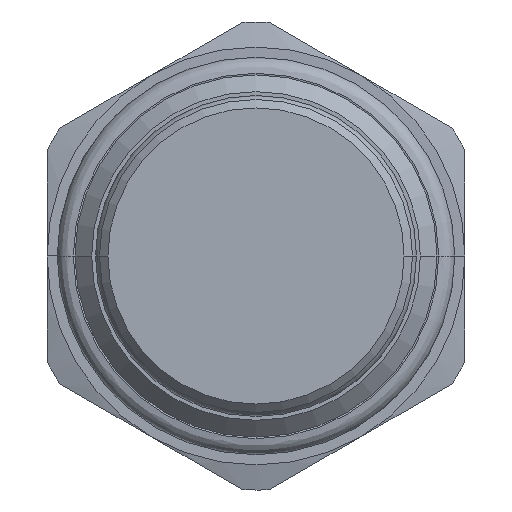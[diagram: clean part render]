
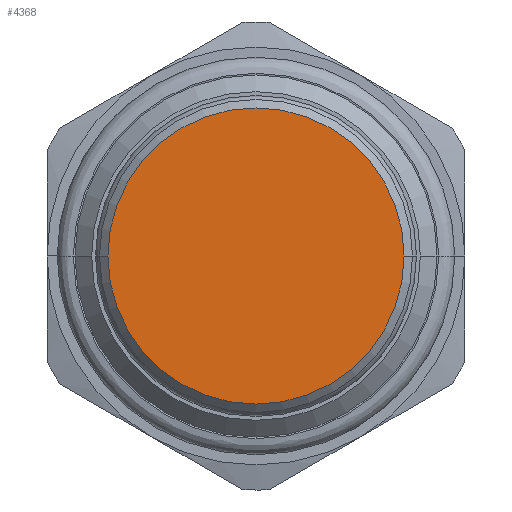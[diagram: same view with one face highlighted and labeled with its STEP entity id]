
A CAD part, front view. The second image highlights one B-rep face of the part: STEP entity #4368.
In plain terms, the highlighted planar face has unit normal (0, -1, 0).
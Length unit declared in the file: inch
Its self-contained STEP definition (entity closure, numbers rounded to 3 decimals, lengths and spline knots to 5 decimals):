
#1426=CARTESIAN_POINT('',(0.,-1.75,0.));
#1427=DIRECTION('',(0.,1.,0.));
#1428=DIRECTION('',(-1.,0.,0.));
#1429=AXIS2_PLACEMENT_3D('',#1426,#1427,#1428);
#1431=CARTESIAN_POINT('',(0.,-1.75,0.));
#1432=DIRECTION('',(0.,1.,0.));
#1433=DIRECTION('',(1.,0.,0.));
#1434=AXIS2_PLACEMENT_3D('',#1431,#1432,#1433);
#2085=CARTESIAN_POINT('',(-0.5315,-1.75,0.));
#2086=CARTESIAN_POINT('',(0.5315,-1.75,0.));
#2087=VERTEX_POINT('',#2085);
#2088=VERTEX_POINT('',#2086);
#4358=CARTESIAN_POINT('',(0.,-1.75,0.));
#4359=DIRECTION('',(0.,-1.,0.));
#4360=DIRECTION('',(-1.,0.,0.));
#4361=AXIS2_PLACEMENT_3D('',#4358,#4359,#4360);
#4362=PLANE('',#4361);
#4363=ORIENTED_EDGE('',*,*,#4348,.T.);
#4365=ORIENTED_EDGE('',*,*,#4364,.T.);
#4366=EDGE_LOOP('',(#4363,#4365));
#4367=FACE_OUTER_BOUND('',#4366,.F.);
#4368=ADVANCED_FACE('',(#4367),#4362,.T.);
#1430=CIRCLE('',#1429,0.5315);
#1435=CIRCLE('',#1434,0.5315);
#4348=EDGE_CURVE('',#2087,#2088,#1430,.T.);
#4364=EDGE_CURVE('',#2088,#2087,#1435,.T.);
